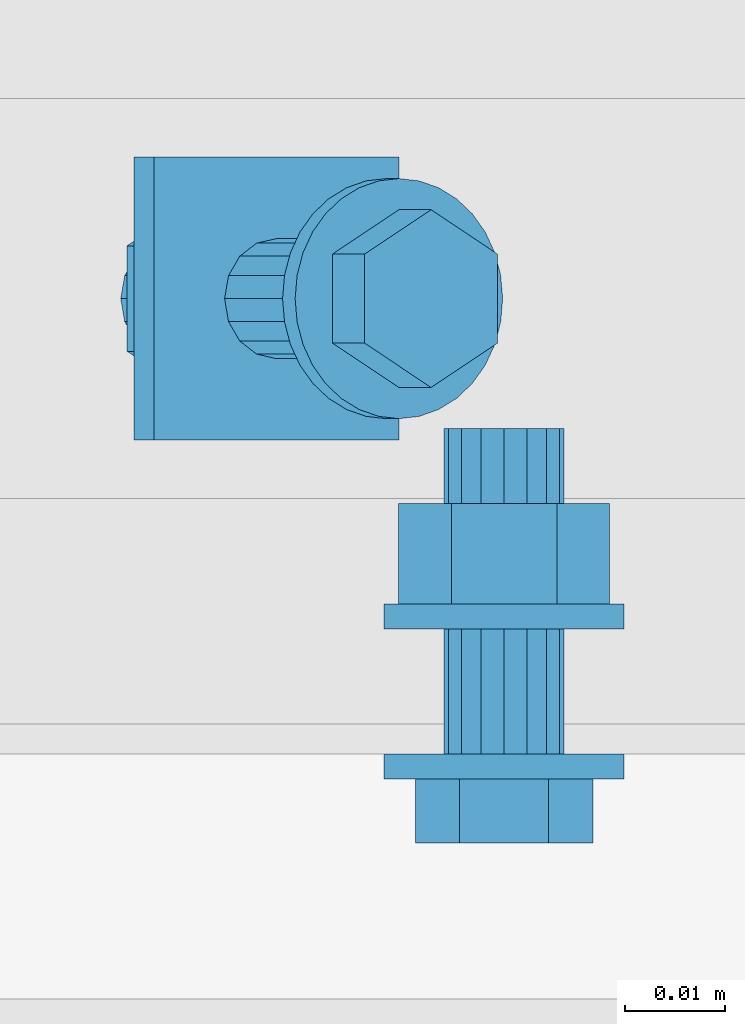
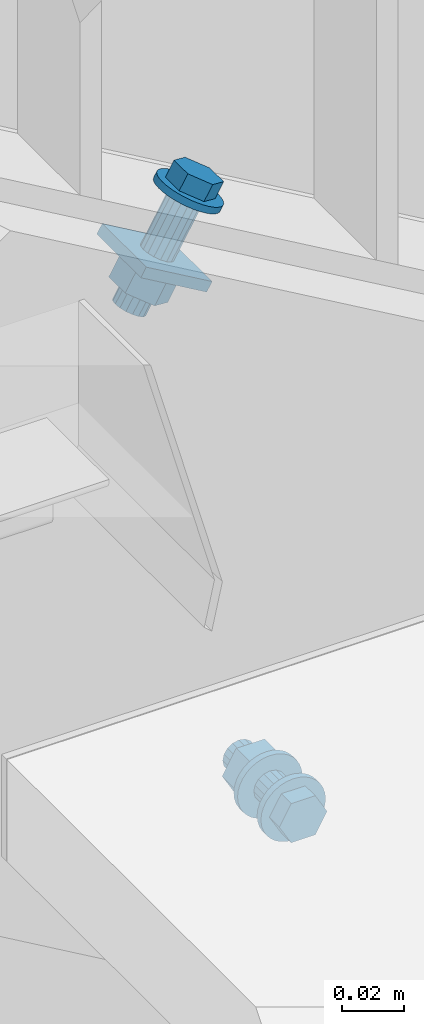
# One storey, part 67 of 145: 2 mechanical fasteners.
"""IFC2X3 building model written with IfcOpenShell, lengths in millimetres."""

from ifc_helpers import new_model, entity, si_unit, converted_unit, origin_with_axes, place, context, project, spatial, faceted_brep, element, save


model = new_model("IFC2X3")

# Units and contexts
model_context = context("Model", 3, precision=1e-09, world=origin_with_axes())
ifc_project = project(units=[si_unit("LENGTHUNIT", "METRE", prefix="MILLI"), si_unit("AREAUNIT", "SQUARE_METRE"), si_unit("VOLUMEUNIT", "CUBIC_METRE"), converted_unit("PLANEANGLEUNIT", "DEGREE", entity("IfcPlaneAngleMeasure", 0.01745329), si_unit("PLANEANGLEUNIT", "RADIAN"), dimensions=[0, 0, 0, 0, 0, 0, 0])], contexts=[model_context])

# Site, building, storey
site_placement = place(None, origin_with_axes())
site = spatial("IfcSite", under=ifc_project, at=site_placement, Name="BZ1 Grund- und Mittelschule 85716 Unterschlei?heim", CompositionType="ELEMENT")
building_placement = place(site_placement, origin_with_axes())
building = spatial("IfcBuilding", under=site, at=building_placement, Name="Struktur 1", CompositionType="ELEMENT")
storey_placement = place(building_placement, origin_with_axes())
storey = spatial("IfcBuildingStorey", under=building, at=storey_placement, Name="Default Storey", CompositionType="ELEMENT", Elevation=0.0)

# Mechanical fasteners
mechanical_fastener_1_placement = place(None, origin_with_axes())
element("IfcMechanicalFastener", 1, at=mechanical_fastener_1_placement, inside=storey, ObjectType="-", NominalDiameter=12.0, NominalLength=35.0, context=model_context, shape_type="Brep", body=[
    faceted_brep([(17382.1419848, -275.502, 3014.363636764), (17382.1419848, -273.002, 3014.363636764), (17384.483068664, -273.002, 3014.594213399), (17384.483068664, -275.502, 3014.594213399), (17386.734185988, -273.002, 3015.277082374), (17386.734185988, -275.502, 3015.277082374), (17388.808827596, -273.002, 3016.386001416), (17388.808827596, -275.502, 3016.386001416), (17390.627266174, -273.002, 3017.878355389), (17390.627266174, -275.502, 3017.878355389), (17392.119620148, -273.002, 3019.696793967), (17392.119620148, -275.502, 3019.696793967), (17393.22853919, -273.002, 3021.771435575), (17393.22853919, -275.502, 3021.771435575), (17393.911408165, -273.002, 3024.022552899), (17393.911408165, -275.502, 3024.022552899), (17394.1419848, -273.002, 3026.363636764), (17394.1419848, -275.502, 3026.363636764), (17393.911408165, -273.002, 3028.704720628), (17393.911408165, -275.502, 3028.704720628), (17393.22853919, -273.002, 3030.955837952), (17393.22853919, -275.502, 3030.955837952), (17392.119620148, -273.002, 3033.03047956), (17392.119620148, -275.502, 3033.03047956), (17390.627266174, -273.002, 3034.848918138), (17390.627266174, -275.502, 3034.848918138), (17388.808827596, -273.002, 3036.341272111), (17388.808827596, -275.502, 3036.341272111), (17386.734185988, -273.002, 3037.450191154), (17386.734185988, -275.502, 3037.450191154), (17384.483068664, -273.002, 3038.133060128), (17384.483068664, -275.502, 3038.133060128), (17382.1419848, -273.002, 3038.363636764), (17382.1419848, -275.502, 3038.363636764), (17379.800900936, -273.002, 3038.133060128), (17379.800900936, -275.502, 3038.133060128), (17377.549783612, -273.002, 3037.450191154), (17377.549783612, -275.502, 3037.450191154), (17375.475142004, -273.002, 3036.341272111), (17375.475142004, -275.502, 3036.341272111), (17373.656703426, -273.002, 3034.848918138), (17373.656703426, -275.502, 3034.848918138), (17372.164349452, -273.002, 3033.03047956), (17372.164349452, -275.502, 3033.03047956), (17371.05543041, -273.002, 3030.955837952), (17371.05543041, -275.502, 3030.955837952), (17370.372561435, -273.002, 3028.704720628), (17370.372561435, -275.502, 3028.704720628), (17370.1419848, -273.002, 3026.363636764), (17370.1419848, -275.502, 3026.363636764), (17370.372561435, -273.002, 3024.022552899), (17370.372561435, -275.502, 3024.022552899), (17371.05543041, -273.002, 3021.771435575), (17371.05543041, -275.502, 3021.771435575), (17372.164349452, -273.002, 3019.696793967), (17372.164349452, -275.502, 3019.696793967), (17373.656703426, -273.002, 3017.878355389), (17373.656703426, -275.502, 3017.878355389), (17375.475142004, -273.002, 3016.386001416), (17375.475142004, -275.502, 3016.386001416), (17377.549783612, -273.002, 3015.277082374), (17377.549783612, -275.502, 3015.277082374), (17379.800900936, -273.002, 3014.594213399), (17379.800900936, -275.502, 3014.594213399)], [[[0, 1, 2, 3]], [[3, 2, 4, 5]], [[5, 4, 6, 7]], [[7, 6, 8, 9]], [[9, 8, 10, 11]], [[11, 10, 12, 13]], [[13, 12, 14, 15]], [[15, 14, 16, 17]], [[17, 16, 18, 19]], [[19, 18, 20, 21]], [[21, 20, 22, 23]], [[23, 22, 24, 25]], [[25, 24, 26, 27]], [[27, 26, 28, 29]], [[29, 28, 30, 31]], [[31, 30, 32, 33]], [[33, 32, 34, 35]], [[35, 34, 36, 37]], [[37, 36, 38, 39]], [[39, 38, 40, 41]], [[41, 40, 42, 43]], [[43, 42, 44, 45]], [[45, 44, 46, 47]], [[47, 46, 48, 49]], [[49, 48, 50, 51]], [[51, 50, 52, 53]], [[53, 52, 54, 55]], [[55, 54, 56, 57]], [[57, 56, 58, 59]], [[59, 58, 60, 61]], [[61, 60, 62, 63]], [[63, 62, 1, 0]], [[0, 3, 5, 7, 9, 11, 13, 15, 17, 19, 21, 23, 25, 27, 29, 31, 33, 35, 37, 39, 41, 43, 45, 47, 49, 51, 53, 55, 57, 59, 61, 63]], [[1, 62, 60, 58, 56, 54, 52, 50, 48, 46, 44, 42, 40, 38, 36, 34, 32, 30, 28, 26, 24, 22, 20, 18, 16, 14, 12, 10, 8, 6, 4, 2]]]),
    faceted_brep([(17386.5844848, -275.502, 3034.058272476), (17386.5844848, -281.902, 3034.058272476), (17391.0269848, -281.902, 3026.363636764), (17391.0269848, -275.502, 3026.363636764), (17386.5844848, -281.902, 3018.669001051), (17386.5844848, -275.502, 3018.669001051), (17377.6994848, -281.902, 3018.669001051), (17377.6994848, -275.502, 3018.669001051), (17373.2569848, -281.902, 3026.363636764), (17373.2569848, -275.502, 3026.363636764), (17377.6994848, -281.902, 3034.058272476), (17377.6994848, -275.502, 3034.058272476)], [[[0, 1, 2, 3]], [[3, 2, 4, 5]], [[5, 4, 6, 7]], [[7, 6, 8, 9]], [[9, 8, 10, 11]], [[11, 10, 1, 0]], [[4, 2, 1, 10, 8, 6]], [[0, 3, 5, 7, 9, 11]]]),
    faceted_brep([(17382.1419848, -273.002, 3020.363636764), (17382.1419848, -260.502, 3020.363636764), (17384.438085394, -260.502, 3020.820359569), (17384.438085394, -273.002, 3020.820359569), (17386.384625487, -260.502, 3022.120996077), (17386.384625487, -273.002, 3022.120996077), (17387.685261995, -260.502, 3024.067536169), (17387.685261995, -273.002, 3024.067536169), (17388.1419848, -260.502, 3026.363636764), (17388.1419848, -273.002, 3026.363636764), (17387.685261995, -260.502, 3028.659737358), (17387.685261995, -273.002, 3028.659737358), (17386.384625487, -260.502, 3030.606277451), (17386.384625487, -273.002, 3030.606277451), (17384.438085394, -260.502, 3031.906913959), (17384.438085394, -273.002, 3031.906913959), (17382.1419848, -260.502, 3032.363636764), (17382.1419848, -273.002, 3032.363636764), (17379.845884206, -260.502, 3031.906913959), (17379.845884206, -273.002, 3031.906913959), (17377.899344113, -260.502, 3030.606277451), (17377.899344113, -273.002, 3030.606277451), (17376.598707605, -260.502, 3028.659737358), (17376.598707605, -273.002, 3028.659737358), (17376.1419848, -260.502, 3026.363636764), (17376.1419848, -273.002, 3026.363636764), (17376.598707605, -260.502, 3024.067536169), (17376.598707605, -273.002, 3024.067536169), (17377.899344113, -260.502, 3022.120996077), (17377.899344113, -273.002, 3022.120996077), (17379.845884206, -260.502, 3020.820359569), (17379.845884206, -273.002, 3020.820359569)], [[[0, 1, 2, 3]], [[3, 2, 4, 5]], [[5, 4, 6, 7]], [[7, 6, 8, 9]], [[9, 8, 10, 11]], [[11, 10, 12, 13]], [[13, 12, 14, 15]], [[15, 14, 16, 17]], [[17, 16, 18, 19]], [[19, 18, 20, 21]], [[21, 20, 22, 23]], [[23, 22, 24, 25]], [[25, 24, 26, 27]], [[27, 26, 28, 29]], [[29, 28, 30, 31]], [[31, 30, 1, 0]], [[0, 3, 5, 7, 9, 11, 13, 15, 17, 19, 21, 23, 25, 27, 29, 31]], [[1, 30, 28, 26, 24, 22, 20, 18, 16, 14, 12, 10, 8, 6, 4, 2]]]),
    faceted_brep([(17382.1419848, -260.502, 3014.363636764), (17382.1419848, -258.002, 3014.363636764), (17384.483068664, -258.002, 3014.594213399), (17384.483068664, -260.502, 3014.594213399), (17386.734185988, -258.002, 3015.277082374), (17386.734185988, -260.502, 3015.277082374), (17388.808827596, -258.002, 3016.386001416), (17388.808827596, -260.502, 3016.386001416), (17390.627266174, -258.002, 3017.878355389), (17390.627266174, -260.502, 3017.878355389), (17392.119620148, -258.002, 3019.696793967), (17392.119620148, -260.502, 3019.696793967), (17393.22853919, -258.002, 3021.771435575), (17393.22853919, -260.502, 3021.771435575), (17393.911408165, -258.002, 3024.022552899), (17393.911408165, -260.502, 3024.022552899), (17394.1419848, -258.002, 3026.363636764), (17394.1419848, -260.502, 3026.363636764), (17393.911408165, -258.002, 3028.704720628), (17393.911408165, -260.502, 3028.704720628), (17393.22853919, -258.002, 3030.955837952), (17393.22853919, -260.502, 3030.955837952), (17392.119620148, -258.002, 3033.03047956), (17392.119620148, -260.502, 3033.03047956), (17390.627266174, -258.002, 3034.848918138), (17390.627266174, -260.502, 3034.848918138), (17388.808827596, -258.002, 3036.341272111), (17388.808827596, -260.502, 3036.341272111), (17386.734185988, -258.002, 3037.450191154), (17386.734185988, -260.502, 3037.450191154), (17384.483068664, -258.002, 3038.133060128), (17384.483068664, -260.502, 3038.133060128), (17382.1419848, -258.002, 3038.363636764), (17382.1419848, -260.502, 3038.363636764), (17379.800900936, -258.002, 3038.133060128), (17379.800900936, -260.502, 3038.133060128), (17377.549783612, -258.002, 3037.450191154), (17377.549783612, -260.502, 3037.450191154), (17375.475142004, -258.002, 3036.341272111), (17375.475142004, -260.502, 3036.341272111), (17373.656703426, -258.002, 3034.848918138), (17373.656703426, -260.502, 3034.848918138), (17372.164349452, -258.002, 3033.03047956), (17372.164349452, -260.502, 3033.03047956), (17371.05543041, -258.002, 3030.955837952), (17371.05543041, -260.502, 3030.955837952), (17370.372561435, -258.002, 3028.704720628), (17370.372561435, -260.502, 3028.704720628), (17370.1419848, -258.002, 3026.363636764), (17370.1419848, -260.502, 3026.363636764), (17370.372561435, -258.002, 3024.022552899), (17370.372561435, -260.502, 3024.022552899), (17371.05543041, -258.002, 3021.771435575), (17371.05543041, -260.502, 3021.771435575), (17372.164349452, -258.002, 3019.696793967), (17372.164349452, -260.502, 3019.696793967), (17373.656703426, -258.002, 3017.878355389), (17373.656703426, -260.502, 3017.878355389), (17375.475142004, -258.002, 3016.386001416), (17375.475142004, -260.502, 3016.386001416), (17377.549783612, -258.002, 3015.277082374), (17377.549783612, -260.502, 3015.277082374), (17379.800900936, -258.002, 3014.594213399), (17379.800900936, -260.502, 3014.594213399)], [[[0, 1, 2, 3]], [[3, 2, 4, 5]], [[5, 4, 6, 7]], [[7, 6, 8, 9]], [[9, 8, 10, 11]], [[11, 10, 12, 13]], [[13, 12, 14, 15]], [[15, 14, 16, 17]], [[17, 16, 18, 19]], [[19, 18, 20, 21]], [[21, 20, 22, 23]], [[23, 22, 24, 25]], [[25, 24, 26, 27]], [[27, 26, 28, 29]], [[29, 28, 30, 31]], [[31, 30, 32, 33]], [[33, 32, 34, 35]], [[35, 34, 36, 37]], [[37, 36, 38, 39]], [[39, 38, 40, 41]], [[41, 40, 42, 43]], [[43, 42, 44, 45]], [[45, 44, 46, 47]], [[47, 46, 48, 49]], [[49, 48, 50, 51]], [[51, 50, 52, 53]], [[53, 52, 54, 55]], [[55, 54, 56, 57]], [[57, 56, 58, 59]], [[59, 58, 60, 61]], [[61, 60, 62, 63]], [[63, 62, 1, 0]], [[0, 3, 5, 7, 9, 11, 13, 15, 17, 19, 21, 23, 25, 27, 29, 31, 33, 35, 37, 39, 41, 43, 45, 47, 49, 51, 53, 55, 57, 59, 61, 63]], [[1, 62, 60, 58, 56, 54, 52, 50, 48, 46, 44, 42, 40, 38, 36, 34, 32, 30, 28, 26, 24, 22, 20, 18, 16, 14, 12, 10, 8, 6, 4, 2]]]),
    faceted_brep([(17387.4169848, -248.002, 3035.500204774), (17387.4169848, -258.002, 3035.500204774), (17392.6919848, -258.002, 3026.363636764), (17392.6919848, -248.002, 3026.363636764), (17387.4169848, -258.002, 3017.227068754), (17387.4169848, -248.002, 3017.227068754), (17376.8669848, -258.002, 3017.227068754), (17376.8669848, -248.002, 3017.227068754), (17371.5919848, -258.002, 3026.363636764), (17371.5919848, -248.002, 3026.363636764), (17376.8669848, -258.002, 3035.500204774), (17376.8669848, -248.002, 3035.500204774)], [[[0, 1, 2, 3]], [[3, 2, 4, 5]], [[5, 4, 6, 7]], [[7, 6, 8, 9]], [[9, 8, 10, 11]], [[11, 10, 1, 0]], [[4, 2, 1, 10, 8, 6]], [[0, 3, 5, 7, 9, 11]]]),
    faceted_brep([(17382.1419848, -248.002, 3020.363636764), (17382.1419848, -240.502, 3020.363636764), (17384.438085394, -240.502, 3020.820359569), (17384.438085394, -248.002, 3020.820359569), (17386.384625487, -240.502, 3022.120996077), (17386.384625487, -248.002, 3022.120996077), (17387.685261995, -240.502, 3024.067536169), (17387.685261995, -248.002, 3024.067536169), (17388.1419848, -240.502, 3026.363636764), (17388.1419848, -248.002, 3026.363636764), (17387.685261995, -240.502, 3028.659737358), (17387.685261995, -248.002, 3028.659737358), (17386.384625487, -240.502, 3030.606277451), (17386.384625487, -248.002, 3030.606277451), (17384.438085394, -240.502, 3031.906913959), (17384.438085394, -248.002, 3031.906913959), (17382.1419848, -240.502, 3032.363636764), (17382.1419848, -248.002, 3032.363636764), (17379.845884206, -240.502, 3031.906913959), (17379.845884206, -248.002, 3031.906913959), (17377.899344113, -240.502, 3030.606277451), (17377.899344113, -248.002, 3030.606277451), (17376.598707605, -240.502, 3028.659737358), (17376.598707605, -248.002, 3028.659737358), (17376.1419848, -240.502, 3026.363636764), (17376.1419848, -248.002, 3026.363636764), (17376.598707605, -240.502, 3024.067536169), (17376.598707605, -248.002, 3024.067536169), (17377.899344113, -240.502, 3022.120996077), (17377.899344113, -248.002, 3022.120996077), (17379.845884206, -240.502, 3020.820359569), (17379.845884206, -248.002, 3020.820359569)], [[[0, 1, 2, 3]], [[3, 2, 4, 5]], [[5, 4, 6, 7]], [[7, 6, 8, 9]], [[9, 8, 10, 11]], [[11, 10, 12, 13]], [[13, 12, 14, 15]], [[15, 14, 16, 17]], [[17, 16, 18, 19]], [[19, 18, 20, 21]], [[21, 20, 22, 23]], [[23, 22, 24, 25]], [[25, 24, 26, 27]], [[27, 26, 28, 29]], [[29, 28, 30, 31]], [[31, 30, 1, 0]], [[0, 3, 5, 7, 9, 11, 13, 15, 17, 19, 21, 23, 25, 27, 29, 31]], [[1, 30, 28, 26, 24, 22, 20, 18, 16, 14, 12, 10, 8, 6, 4, 2]]]),
])
mechanical_fastener_2_placement = place(None, origin_with_axes())
element("IfcMechanicalFastener", 2, at=mechanical_fastener_2_placement, inside=storey, ObjectType="-", NominalDiameter=12.0, NominalLength=45.0, context=model_context, shape_type="Brep", body=[
    faceted_brep([(17381.992603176, -227.502, 3238.620239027), (17380.73587541, -227.502, 3236.459073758), (17380.536549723, -225.160916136, 3236.574982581), (17381.79327749, -225.160916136, 3238.736147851), (17379.946232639, -222.909798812, 3236.918254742), (17381.202960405, -222.909798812, 3239.079420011), (17378.98760971, -220.835157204, 3237.475698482), (17380.244337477, -220.835157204, 3239.636863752), (17377.697520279, -219.016718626, 3238.225891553), (17378.954248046, -219.016718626, 3240.387056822), (17376.12554176, -217.524364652, 3239.140004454), (17377.382269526, -217.524364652, 3241.301169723), (17374.332084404, -216.41544561, 3240.182908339), (17375.58881217, -216.41544561, 3242.344073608), (17372.386069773, -215.732576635, 3241.314524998), (17373.642797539, -215.732576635, 3243.475690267), (17370.362282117, -215.502, 3242.491367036), (17371.619009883, -215.502, 3244.652532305), (17368.338494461, -215.732576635, 3243.668209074), (17369.595222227, -215.732576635, 3245.829374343), (17366.39247983, -216.41544561, 3244.799825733), (17367.649207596, -216.41544561, 3246.960991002), (17364.599022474, -217.524364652, 3245.842729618), (17365.85575024, -217.524364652, 3248.003894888), (17363.027043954, -219.016718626, 3246.756842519), (17364.283771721, -219.016718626, 3248.918007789), (17361.736954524, -220.835157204, 3247.507035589), (17362.99368229, -220.835157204, 3249.668200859), (17360.778331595, -222.909798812, 3248.06447933), (17362.035059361, -222.909798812, 3250.225644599), (17360.18801451, -225.160916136, 3248.40775149), (17361.444742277, -225.160916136, 3250.56891676), (17359.988688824, -227.502, 3248.523660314), (17361.24541659, -227.502, 3250.684825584), (17360.18801451, -229.843083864, 3248.40775149), (17361.444742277, -229.843083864, 3250.56891676), (17360.778331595, -232.094201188, 3248.06447933), (17362.035059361, -232.094201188, 3250.225644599), (17361.736954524, -234.168842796, 3247.507035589), (17362.99368229, -234.168842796, 3249.668200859), (17363.027043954, -235.987281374, 3246.756842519), (17364.283771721, -235.987281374, 3248.918007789), (17364.599022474, -237.479635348, 3245.842729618), (17365.85575024, -237.479635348, 3248.003894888), (17366.39247983, -238.58855439, 3244.799825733), (17367.649207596, -238.58855439, 3246.960991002), (17368.338494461, -239.271423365, 3243.668209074), (17369.595222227, -239.271423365, 3245.829374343), (17370.362282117, -239.502, 3242.491367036), (17371.619009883, -239.502, 3244.652532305), (17372.386069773, -239.271423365, 3241.314524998), (17373.642797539, -239.271423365, 3243.475690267), (17374.332084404, -238.58855439, 3240.182908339), (17375.58881217, -238.58855439, 3242.344073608), (17376.12554176, -237.479635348, 3239.140004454), (17377.382269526, -237.479635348, 3241.301169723), (17377.697520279, -235.987281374, 3238.225891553), (17378.954248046, -235.987281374, 3240.387056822), (17378.98760971, -234.168842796, 3237.475698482), (17380.244337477, -234.168842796, 3239.636863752), (17379.946232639, -232.094201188, 3236.918254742), (17381.202960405, -232.094201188, 3239.079420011), (17380.536549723, -229.843083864, 3236.574982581), (17381.79327749, -229.843083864, 3238.736147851)], [[[0, 1, 2, 3]], [[3, 2, 4, 5]], [[5, 4, 6, 7]], [[7, 6, 8, 9]], [[9, 8, 10, 11]], [[11, 10, 12, 13]], [[13, 12, 14, 15]], [[15, 14, 16, 17]], [[17, 16, 18, 19]], [[19, 18, 20, 21]], [[21, 20, 22, 23]], [[23, 22, 24, 25]], [[25, 24, 26, 27]], [[27, 26, 28, 29]], [[29, 28, 30, 31]], [[31, 30, 32, 33]], [[33, 32, 34, 35]], [[35, 34, 36, 37]], [[37, 36, 38, 39]], [[39, 38, 40, 41]], [[41, 40, 42, 43]], [[43, 42, 44, 45]], [[45, 44, 46, 47]], [[47, 46, 48, 49]], [[49, 48, 50, 51]], [[51, 50, 52, 53]], [[53, 52, 54, 55]], [[55, 54, 56, 57]], [[57, 56, 58, 59]], [[59, 58, 60, 61]], [[61, 60, 62, 63]], [[63, 62, 1, 0]], [[0, 3, 5, 7, 9, 11, 13, 15, 17, 19, 21, 23, 25, 27, 29, 31, 33, 35, 37, 39, 41, 43, 45, 47, 49, 51, 53, 55, 57, 59, 61, 63]], [[1, 62, 60, 58, 56, 54, 52, 50, 48, 46, 44, 42, 40, 38, 36, 34, 32, 30, 28, 26, 24, 22, 20, 18, 16, 14, 12, 10, 8, 6, 4, 2]]]),
    faceted_brep([(17364.967258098, -223.0595, 3248.520557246), (17368.18448118, -223.0595, 3254.053140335), (17374.836232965, -218.617, 3250.185115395), (17371.619009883, -218.617, 3244.652532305), (17381.48798475, -223.0595, 3246.317090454), (17378.270761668, -223.0595, 3240.784507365), (17381.48798475, -231.9445, 3246.317090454), (17378.270761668, -231.9445, 3240.784507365), (17374.836232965, -236.387, 3250.185115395), (17371.619009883, -236.387, 3244.652532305), (17368.18448118, -231.9445, 3254.053140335), (17364.967258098, -231.9445, 3248.520557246)], [[[0, 1, 2, 3]], [[3, 2, 4, 5]], [[5, 4, 6, 7]], [[7, 6, 8, 9]], [[9, 8, 10, 11]], [[11, 10, 1, 0]], [[4, 2, 1, 10, 8, 6]], [[0, 3, 5, 7, 9, 11]]]),
    faceted_brep([(17375.549078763, -227.502, 3239.475220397), (17364.568286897, -227.502, 3220.591810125), (17364.173465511, -225.205899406, 3220.821400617), (17375.154257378, -225.205899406, 3239.704810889), (17363.049109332, -223.259359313, 3221.475219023), (17374.029901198, -223.259359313, 3240.358629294), (17361.366391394, -221.958722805, 3222.453727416), (17372.34718326, -221.958722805, 3241.337137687), (17359.38149025, -221.502, 3223.607956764), (17370.362282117, -221.502, 3242.491367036), (17357.396589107, -221.958722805, 3224.762186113), (17368.377380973, -221.958722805, 3243.645596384), (17355.713871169, -223.259359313, 3225.740694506), (17366.694663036, -223.259359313, 3244.624104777), (17354.58951499, -225.205899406, 3226.394512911), (17365.570306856, -225.205899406, 3245.277923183), (17354.194693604, -227.502, 3226.624103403), (17365.17548547, -227.502, 3245.507513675), (17354.58951499, -229.798100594, 3226.394512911), (17365.570306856, -229.798100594, 3245.277923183), (17355.713871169, -231.744640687, 3225.740694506), (17366.694663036, -231.744640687, 3244.624104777), (17357.396589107, -233.045277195, 3224.762186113), (17368.377380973, -233.045277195, 3243.645596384), (17359.38149025, -233.502, 3223.607956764), (17370.362282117, -233.502, 3242.491367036), (17361.366391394, -233.045277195, 3222.453727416), (17372.34718326, -233.045277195, 3241.337137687), (17363.049109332, -231.744640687, 3221.475219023), (17374.029901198, -231.744640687, 3240.358629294), (17364.173465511, -229.798100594, 3220.821400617), (17375.154257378, -229.798100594, 3239.704810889)], [[[0, 1, 2, 3]], [[3, 2, 4, 5]], [[5, 4, 6, 7]], [[7, 6, 8, 9]], [[9, 8, 10, 11]], [[11, 10, 12, 13]], [[13, 12, 14, 15]], [[15, 14, 16, 17]], [[17, 16, 18, 19]], [[19, 18, 20, 21]], [[21, 20, 22, 23]], [[23, 22, 24, 25]], [[25, 24, 26, 27]], [[27, 26, 28, 29]], [[29, 28, 30, 31]], [[31, 30, 1, 0]], [[0, 3, 5, 7, 9, 11, 13, 15, 17, 19, 21, 23, 25, 27, 29, 31]], [[1, 30, 28, 26, 24, 22, 20, 18, 16, 14, 12, 10, 8, 6, 4, 2]]]),
    faceted_brep([(17345.145328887, -213.359864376, 3227.259218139), (17347.156093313, -213.359864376, 3230.71708257), (17371.606887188, -213.359864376, 3216.498830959), (17369.596122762, -213.359864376, 3213.040966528), (17371.606887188, -241.644135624, 3216.498830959), (17369.596122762, -241.644135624, 3213.040966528), (17347.156093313, -241.644135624, 3230.71708257), (17345.145328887, -241.644135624, 3227.259218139)], [[[0, 1, 2, 3]], [[3, 2, 4, 5]], [[5, 4, 6, 7]], [[7, 6, 1, 0]], [[4, 2, 1, 6]], [[0, 3, 5, 7]]]),
    faceted_brep([(17344.445561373, -222.227, 3216.098302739), (17349.472472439, -222.227, 3224.742963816), (17357.370725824, -216.952, 3220.150092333), (17352.343814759, -216.952, 3211.505431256), (17365.26897921, -222.227, 3215.557220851), (17360.242068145, -222.227, 3206.912559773), (17365.26897921, -232.777, 3215.557220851), (17360.242068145, -232.777, 3206.912559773), (17357.370725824, -238.052, 3220.150092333), (17352.343814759, -238.052, 3211.505431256), (17349.472472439, -232.777, 3224.742963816), (17344.445561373, -232.777, 3216.098302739)], [[[0, 1, 2, 3]], [[3, 2, 4, 5]], [[5, 4, 6, 7]], [[7, 6, 8, 9]], [[9, 8, 10, 11]], [[11, 10, 1, 0]], [[4, 2, 1, 10, 8, 6]], [[0, 3, 5, 7, 9, 11]]]),
    faceted_brep([(17357.530611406, -227.502, 3208.489284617), (17354.184706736, -227.502, 3202.735410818), (17353.78988535, -225.205899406, 3202.96500131), (17357.13579002, -225.205899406, 3208.718875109), (17352.665529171, -223.259359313, 3203.618819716), (17356.01143384, -223.259359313, 3209.372693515), (17350.982811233, -221.958722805, 3204.597328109), (17354.328715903, -221.958722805, 3210.351201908), (17348.997910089, -221.502, 3205.751557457), (17352.343814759, -221.502, 3211.505431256), (17347.013008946, -221.958722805, 3206.905786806), (17350.358913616, -221.958722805, 3212.659660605), (17345.330291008, -223.259359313, 3207.884295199), (17348.676195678, -223.259359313, 3213.638168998), (17344.205934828, -225.205899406, 3208.538113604), (17347.551839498, -225.205899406, 3214.291987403), (17343.811113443, -227.502, 3208.767704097), (17347.157018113, -227.502, 3214.521577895), (17344.205934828, -229.798100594, 3208.538113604), (17347.551839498, -229.798100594, 3214.291987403), (17345.330291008, -231.744640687, 3207.884295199), (17348.676195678, -231.744640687, 3213.638168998), (17347.013008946, -233.045277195, 3206.905786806), (17350.358913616, -233.045277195, 3212.659660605), (17348.997910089, -233.502, 3205.751557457), (17352.343814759, -233.502, 3211.505431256), (17350.982811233, -233.045277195, 3204.597328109), (17354.328715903, -233.045277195, 3210.351201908), (17352.665529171, -231.744640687, 3203.618819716), (17356.01143384, -231.744640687, 3209.372693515), (17353.78988535, -229.798100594, 3202.96500131), (17357.13579002, -229.798100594, 3208.718875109)], [[[0, 1, 2, 3]], [[3, 2, 4, 5]], [[5, 4, 6, 7]], [[7, 6, 8, 9]], [[9, 8, 10, 11]], [[11, 10, 12, 13]], [[13, 12, 14, 15]], [[15, 14, 16, 17]], [[17, 16, 18, 19]], [[19, 18, 20, 21]], [[21, 20, 22, 23]], [[23, 22, 24, 25]], [[25, 24, 26, 27]], [[27, 26, 28, 29]], [[29, 28, 30, 31]], [[31, 30, 1, 0]], [[0, 3, 5, 7, 9, 11, 13, 15, 17, 19, 21, 23, 25, 27, 29, 31]], [[1, 30, 28, 26, 24, 22, 20, 18, 16, 14, 12, 10, 8, 6, 4, 2]]]),
])

save(model, "model.ifc")
